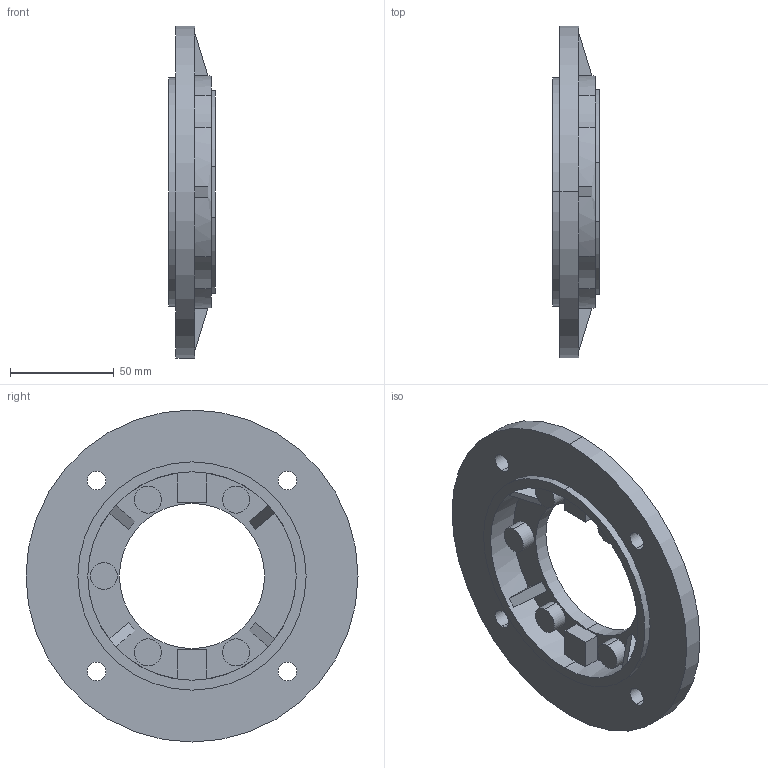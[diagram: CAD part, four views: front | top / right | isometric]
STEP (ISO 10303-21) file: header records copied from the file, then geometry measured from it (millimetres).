
FILE_DESCRIPTION(/* description */ (''),/* implementation_level */ '2;1');
FILE_NAME(/* name */ '2_FLANGIA (CAMPANA) LATERALE FB H032',/* time_stamp */ '2025-10-31T14:20:38+01:00',/* author */ (''),/* organization */ (''),/* preprocessor_version */ 'ST-DEVELOPER v19.2',/* originating_system */ 'Rhino 8.23',/* authorisation */ '');
FILE_SCHEMA (('CONFIG_CONTROL_DESIGN'));
Length unit declared in the file: millimetre
Products named in the file (2): Document; FU032FB-2
Bounding box: 22.5 x 160 x 160 mm (x, y, z)
Volume: 166869.9 mm3; surface area: 51550.4 mm2
Topology: 1 solids, 1 shells, 85 faces, 230 edges, 156 vertices
Faces by surface type: plane 43, cylinder 38, bspline 4
Entity records: 3754 total; most frequent: CARTESIAN_POINT 901, ORIENTED_EDGE 460, DIRECTION 281, EDGE_CURVE 230, AXIS2_PLACEMENT_3D 181, VERTEX_POINT 156, B_SPLINE_CURVE_WITH_KNOTS 126, EDGE_LOOP 104
